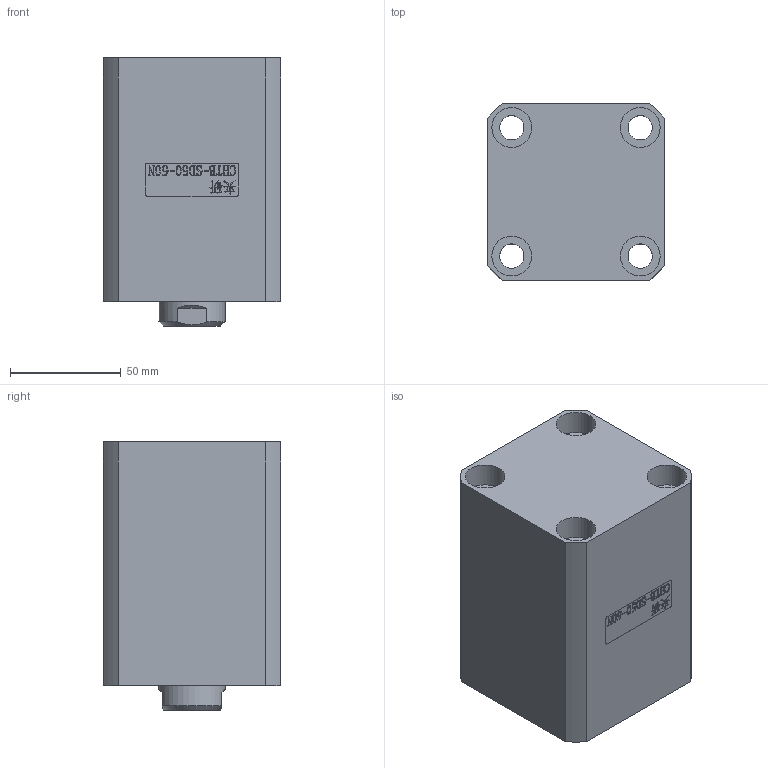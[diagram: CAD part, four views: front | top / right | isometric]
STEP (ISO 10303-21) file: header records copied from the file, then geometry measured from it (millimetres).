
FILE_DESCRIPTION(/* description */ (''),/* implementation_level */ '2;1');
FILE_NAME(/* name */ 'CHTB-SD50-50N.stp',/* time_stamp */ '2022-04-29T18:15:58+08:00',/* author */ (''),/* organization */ (''),/* preprocessor_version */ 'ST-DEVELOPER v16.7',/* originating_system */ 'SIEMENS PLM Software NX 12.0',/* authorisation */ '');
FILE_SCHEMA (('AUTOMOTIVE_DESIGN { 1 0 10303 214 3 1 1 1 }'));
Length unit declared in the file: millimetre
Products named in the file (1): CHTB-SD50-50N
Bounding box: 80 x 80 x 121 mm (x, y, z)
Volume: 567724.6 mm3; surface area: 113070.2 mm2
Topology: 3 solids, 3 shells, 399 faces, 1057 edges, 711 vertices
Faces by surface type: plane 243, extrusion 77, cylinder 50, torus 11, cone 10, bspline 8
Full cylindrical faces by diameter (mm): 4 x4, 10.7 x2, 11 x4, 18 x8, 19 x1, 30 x2, 39 x1, 44 x2, 46 x1, 50 x5, 55 x9, 59 x1
Entity records: 18891 total; most frequent: CARTESIAN_POINT 7767, ORIENTED_EDGE 1950, DIRECTION 1532, EDGE_CURVE 975, VECTOR 720, VERTEX_POINT 697, LINE 643, EDGE_LOOP 507
